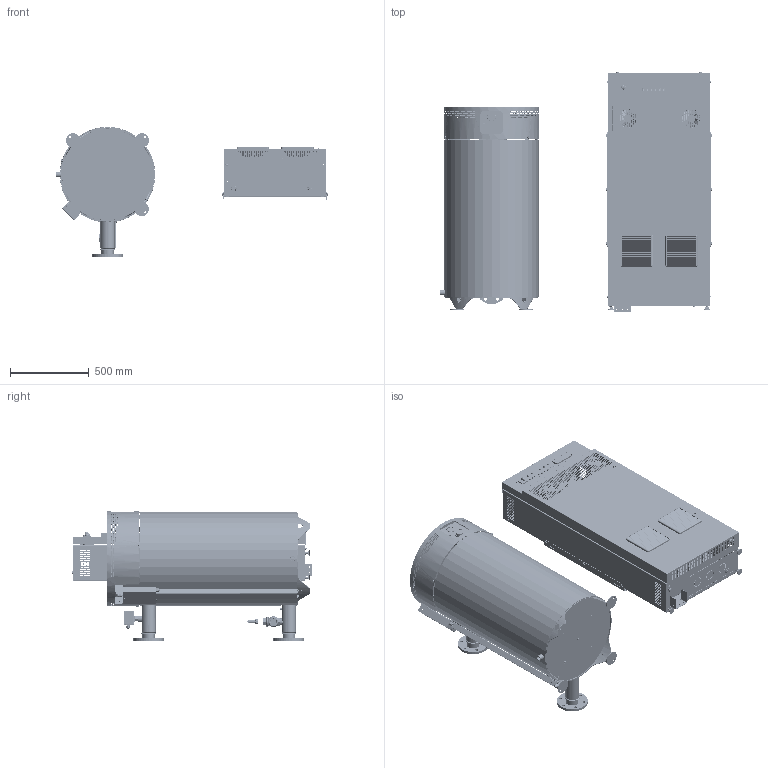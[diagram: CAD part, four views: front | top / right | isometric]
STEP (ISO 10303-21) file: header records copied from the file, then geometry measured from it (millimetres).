
FILE_DESCRIPTION(/* description */ (''),/* implementation_level */ '2;1');
FILE_NAME(/* name */ 'Z:\!!!Обмен файлами\Маркелова Л.В\Задача 193\375-500\Водонагреватель 375-500.stp',/* time_stamp */ '2023-07-11T11:35:10+03:00',/* author */ ('nvsk-constr2'),/* organization */ (''),/* preprocessor_version */ 'ST-DEVELOPER v18.1',/* originating_system */ 'Autodesk Inventor 2021',/* authorisation */ '');
FILE_SCHEMA (('AUTOMOTIVE_DESIGN { 1 0 10303 214 3 1 1 }'));
Products named in the file (3): Водонагреватель 
375-500; 421457.012 ШАУ-500_Shrinkwrap_1; 621179.011 АВП-НП-20
Assembly tree (2 placements, depth 2):
  Водонагреватель 
375-500
    421457.012 ШАУ-500_Shrinkwrap_1
    621179.011 АВП-НП-20
Bounding box: 1723.63 x 1527 x 824.92 mm (x, y, z)
Surface area: 18572854.1 mm2 (no closed solid volume)
Topology: 0 solids, 284 shells, 5508 faces, 17410 edges, 11902 vertices
Faces by surface type: plane 2786, cylinder 1981, cone 392, torus 169, bspline 133, sphere 47
Full cylindrical faces by diameter (mm): 2 x1, 3.242 x2, 3.5 x36, 4 x6, 4.317 x2, 4.4 x14, 4.5 x5, 4.9 x3, 5 x4, 5.9 x9, 6 x27, 6.5 x8, 6.647 x1, 7 x21, 7.119 x1, 7.375 x1, 7.834 x2, 8 x9, 8.376 x4, 8.5 x4, 8.7 x8, 8.8 x3, 9 x6, 9.188 x7, 9.936 x1, 10 x10, 11 x8, 11.433 x2, 11.5 x12, 11.63 x2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
Entity records: 224953 total; most frequent: CARTESIAN_POINT 59668, DIRECTION 33316, ORIENTED_EDGE 31133, EDGE_CURVE 17408, VERTEX_POINT 11902, AXIS2_PLACEMENT_3D 11824, LINE 9668, VECTOR 9668
